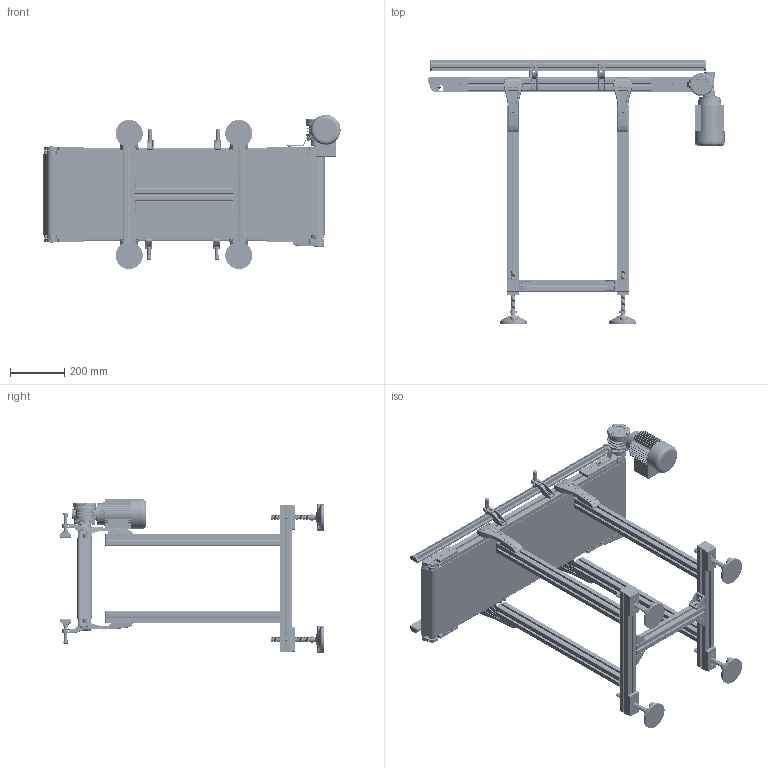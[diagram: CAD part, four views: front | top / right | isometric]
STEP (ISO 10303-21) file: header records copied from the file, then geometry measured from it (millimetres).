
FILE_DESCRIPTION (( 'STEP AP203' ), '1' );
FILE_NAME ('NASTRO_RETTILINEO_TAPPETO.step', '2026-04-29T11:00:58', ( 'Utente Windows' ), ( '' ), 'SwSTEP 2.0', 'SolidWorks 2024', '' );
FILE_SCHEMA (( 'CONFIG_CONTROL_DESIGN' ));
Length unit declared in the file: millimetre
Products named in the file (88): SPONDA_Default<A macchina>; 084.302.000 DADI ALUSIC 13x13-1_084.302.009; BLOCCO_RINVIO_50_PENNA_SX; 084.802.062; 084.302.000 DADI ALUSIC 13x13-1_084.302.007; BLOCCO_TRAINO_50_STANDARD_30_DX; 084.302.000 DADI ALUSIC 9x9_084.302.014; 084.807.002_084.807.002; BLOCCO_PERNO_50_30; 084.201.012-1; 084.807.003_084.807.003<A macchina>; BLOCCO_TRAINO_50_STANDARD; NASTRO_RETTILINEO_TAPPETO; VITI TCEI UNI 5931_M6x12 UNI 5931; VITI TE UNI 5739 INOX_M5x12 UNI 5739 INOX; 084.301.000 VITI ALUSIC_084.301.009; RULLO_SUP_50_PENNA; 12UNI7435; 084.802.065_Default<A macchina>; VITI TSEI UNI 5933 INOX_0412UNI5933A2; 084.827.040; PIEDE; 084.301.000 VITI ALUSIC_084.301.003; 084.302.000 DADI ALUSIC 13x13-1_084.302.004; 14UNI7435; 084.405.001; TAPPETO_STANDARD_1PENNA; FLANGIA_GAMBA_50; VITI TE UNI 5739_M6x16 UNI 5739; 084.802.017_084.802.017; RONDELLE UNI 6592_5.3x10 UNI 6592; 084.810.001; VITE_DADO_M5X12; 2010.000.070; RULLO_50_Default<A macchina>; GAMBE_D50_Default<A macchina>; VITE_RONDELLA_M8X20; 084.802.036; 084.811.004; CHIAVETTE_A 5x5x40 UNI 6604-69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
Assembly tree (180 placements, depth 4):
  NASTRO_RETTILINEO_TAPPETO
    TAPPETO_STANDARD_1PENNA
    TELAIO_50_STANDARD_Default<A macchina>
    LAMIERA_1_PENNA
    RULLO_50_Default<A macchina>
    BLOCCO_PERNO_50_30
      084.810.001
      084.811.001
      RONDELLE FASCIA LARGA UNI 6593_5.4x20 UNI 6593
      084.301.000 VITI ALUSIC_084.301.009
      CHIAVETTE_A 5x5x40 UNI 6604-69
      CHIAVETTE_A 5x5x20 UNI 6604-69
      14UNI7435
    BLOCCO_TRAINO_50_STANDARD_30_DX
      084.807.003_084.807.003<A macchina>
      084.802.017_084.802.017
      084.301.000 VITI ALUSIC_084.301.003  x2
      084.302.000 DADI ALUSIC 13x13-1_084.302.004  x2
      BLOCCO_BRACCIO_CH03P_VF30P
        084.808.012
        084.802.062
        084.802.061
        VITI TE UNI 5739_M6x16 UNI 5739  x4
        084.803.018
        VITI TCEI UNI 5931_M6x12 UNI 5931  x4
      084.802.065_Default<A macchina>
      VITI TCEI UNI 5931_M4x25 UNI 5931  x2
    BLOCCO_PERNO_50_RINVIO
      084.811.004
      084.810.001
    BLOCCO_TRAINO_50_STANDARD
      084.807.002_084.807.002
      084.802.017_084.802.017
      084.301.000 VITI ALUSIC_084.301.003  x2
      084.302.000 DADI ALUSIC 13x13-1_084.302.004  x2
      VITI TSEI UNI 5933_M4x12 UNI 5933  x4
      084.802.071
      VITI TSEI UNI 5933 INOX_0412UNI5933A2  x2
    RULLO_SUP_50_PENNA
    BLOCCO_RINVIO_50_PENNA_SX
      084.807.016_084.807.002
      084.809.007
      084.802.036
      VITI TCEI UNI 5931_M6x30 UNI 5931
      RONDELLE UNI 6592_5.3x10 UNI 6592  x2
      084.302.000 DADI ALUSIC 9x9_084.302.014  x2
      VITI TCEI UNI 5931_M6x20 UNI 5931
      084.301.000 VITI ALUSIC_084.301.036
      084.302.016
      084.301.000 VITI ALUSIC_084.301.003  x2
      VITI TE UNI 5739 INOX_M5x12 UNI 5739 INOX  x2
      12UNI7435
      08UNI7435  x3
    BLOCCO_RINVIO_50_PENNA_DX
      084.802.036
      084.807.015_084.807.002
      VITI TCEI UNI 5931_M6x30 UNI 5931
      084.827.040
      VITI TCEI UNI 5931_M6x20 UNI 5931
      084.301.000 VITI ALUSIC_084.301.036
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Bounding box: 1095 x 972.1 x 567.94 mm (x, y, z)
Volume: 10708876 mm3; surface area: 7393206.4 mm2
Topology: 274 solids, 280 shells, 14606 faces, 37914 edges, 24050 vertices
Faces by surface type: plane 5803, cylinder 4949, bspline 1536, cone 1161, torus 1007, sphere 150
Entity records: 255786 total; most frequent: CARTESIAN_POINT 86156, ORIENTED_EDGE 34568, DIRECTION 31317, EDGE_CURVE 17284, VERTEX_POINT 11089, AXIS2_PLACEMENT_3D 11001, LINE 9315, VECTOR 9315
